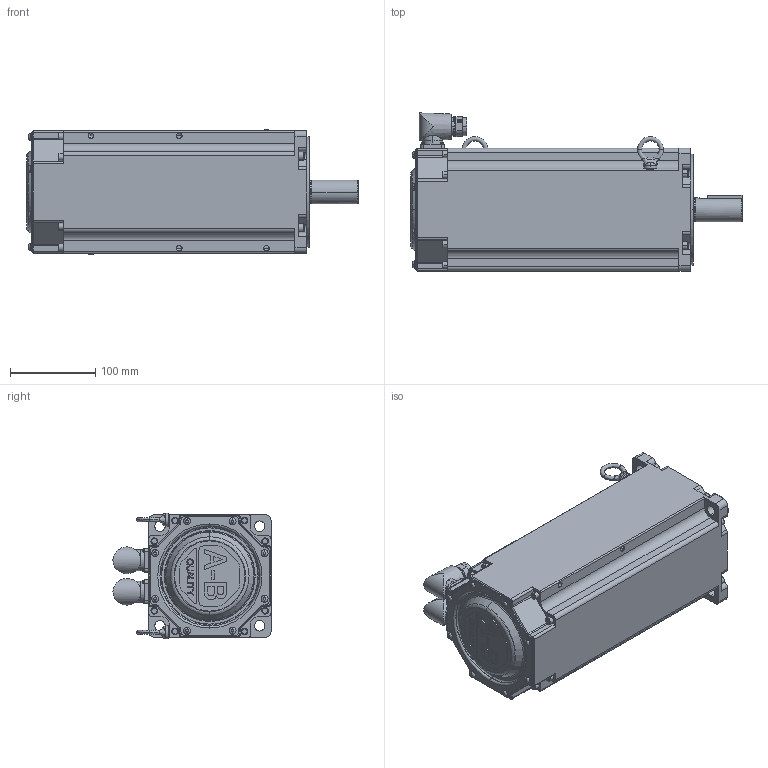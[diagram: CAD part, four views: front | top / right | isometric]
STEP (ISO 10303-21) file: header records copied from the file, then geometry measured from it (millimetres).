
FILE_DESCRIPTION (( 'STEP AP214' ), '1' );
FILE_NAME ('Rockwell Automation-MPM-B1652C-xx74xx.STEP', '2012-08-23T18:39:59', ( 'sysAdmin' ), ( 'SolidWorks' ), 'SwSTEP 2.0', 'SolidWorks 2012', '' );
FILE_SCHEMA (( 'AUTOMOTIVE_DESIGN' ));
Length unit declared in the file: inch
Products named in the file (6): Rockwell Automation-MPM-B1652C-xx74xx_Rockwell Automation-MPM_Medium_Inertia_Motor-MPM-B1652C-xx74xx_MPM-xxx-Eyebolt; Rockwell Automation-MPM-B1652C-xx74xx_Rockwell Automation-MPM_Medium_Inertia_Motor-MPM-B1652C-xx74xx_MPM-xxxx-Power Connector-M23; Rockwell Automation-MPM-B1652C-xx74xx_Rockwell Automation-MPM_Medium_Inertia_Motor-MPM-B1652C-xx74xx_MPM-xxxx-Encoder Connector; Rockwell Automation-MPM-B1652C-xx74xx_Rockwell Automation-MPM_Medium_Inertia_Motor-MPM-B1652C-xx74xx_MPM-165x-Shaft_1652-SHAFT-KEY; Rockwell Automation-MPM-B1652C-xx74xx_Rockwell Automation-MPM_Medium_Inertia_Motor-MPM-B1652C-xx74xx_MPM-165x-body_B1652C-BRAKE; Rockwell Automation-MPM-B1652C-xx74xx
Assembly tree (6 placements, depth 2):
  Rockwell Automation-MPM-B1652C-xx74xx
    Rockwell Automation-MPM-B1652C-xx74xx_Rockwell Automation-MPM_Medium_Inertia_Motor-MPM-B1652C-xx74xx_MPM-165x-body_B1652C-BRAKE
    Rockwell Automation-MPM-B1652C-xx74xx_Rockwell Automation-MPM_Medium_Inertia_Motor-MPM-B1652C-xx74xx_MPM-165x-Shaft_1652-SHAFT-KEY
    Rockwell Automation-MPM-B1652C-xx74xx_Rockwell Automation-MPM_Medium_Inertia_Motor-MPM-B1652C-xx74xx_MPM-xxxx-Encoder Connector
    Rockwell Automation-MPM-B1652C-xx74xx_Rockwell Automation-MPM_Medium_Inertia_Motor-MPM-B1652C-xx74xx_MPM-xxxx-Power Connector-M23
    Rockwell Automation-MPM-B1652C-xx74xx_Rockwell Automation-MPM_Medium_Inertia_Motor-MPM-B1652C-xx74xx_MPM-xxx-Eyebolt  x2
Bounding box: 388.92 x 185.17 x 147.22 mm (x, y, z)
Volume: 3177160.3 mm3; surface area: 484138 mm2
Topology: 7 solids, 7 shells, 1023 faces, 2498 edges, 1591 vertices
Faces by surface type: plane 400, cylinder 388, torus 118, cone 81, bspline 36
Entity records: 33645 total; most frequent: CARTESIAN_POINT 7995, DIRECTION 5327, ORIENTED_EDGE 4894, EDGE_CURVE 2447, AXIS2_PLACEMENT_3D 2024, VERTEX_POINT 1565, VECTOR 1279, LINE 1279
